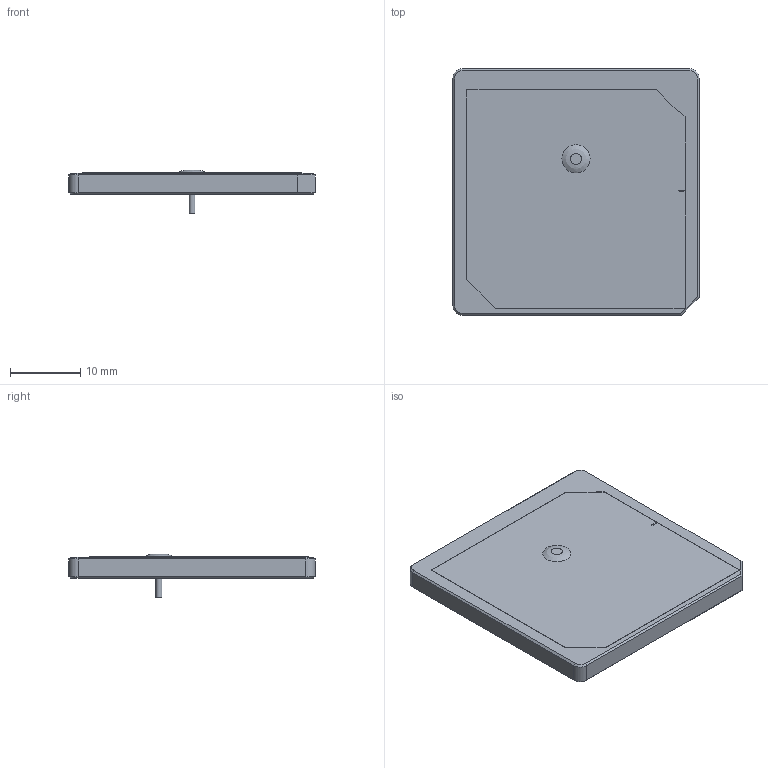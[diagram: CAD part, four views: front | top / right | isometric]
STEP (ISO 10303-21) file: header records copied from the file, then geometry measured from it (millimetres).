
FILE_DESCRIPTION(/* description */ (''),/* implementation_level */ '2;1');
FILE_NAME(/* name */ 'c:\worker\convert-fusion-r04\tmp\job-1\85\output\files\3da995f8-83d1-46b4-b8ec-03316deb2c98\690ff92a-fc84-4a5a-a5c1-52951d2f7a7a.stp',/* time_stamp */ '2022-08-12T10:28:40Z',/* author */ (''),/* organization */ (''),/* preprocessor_version */ 'ST-DEVELOPER v19',/* originating_system */ 'Autodesk Translation Framework v11.7.0.108',/* authorisation */ '');
FILE_SCHEMA (('AUTOMOTIVE_DESIGN { 1 0 10303 214 3 1 1 }'));
Length unit declared in the file: millimetre
Products named in the file (1): Patch_Antenna_35x35
Bounding box: 35 x 35 x 6.25 mm (x, y, z)
Volume: 3795.6 mm3; surface area: 2861.7 mm2
Topology: 1 solids, 1 shells, 56 faces, 128 edges, 80 vertices
Faces by surface type: plane 39, cylinder 10, cone 6, bspline 1
Full cylindrical faces by diameter (mm): 0.85 x1, 1.4 x1, 6 x1
Entity records: 1682 total; most frequent: CARTESIAN_POINT 291, DIRECTION 269, ORIENTED_EDGE 256, EDGE_CURVE 128, LINE 99, VECTOR 99, AXIS2_PLACEMENT_3D 85, VERTEX_POINT 80
